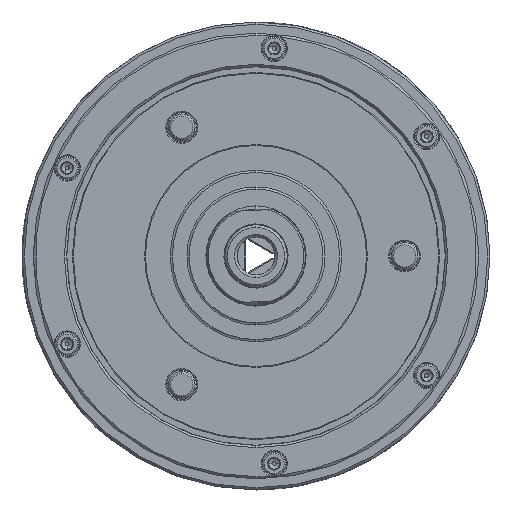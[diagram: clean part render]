
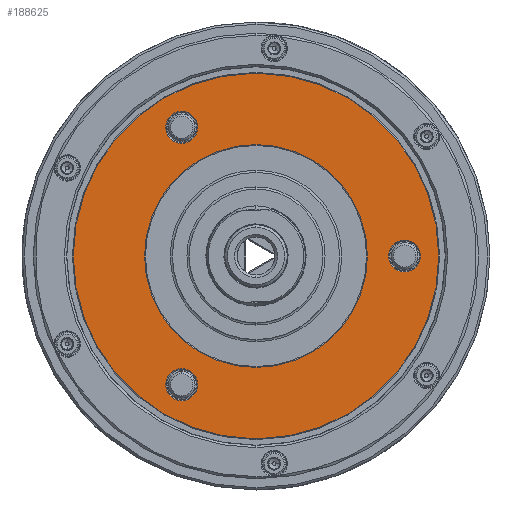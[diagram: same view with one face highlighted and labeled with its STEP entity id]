
A CAD part, left-side view. The second image highlights one B-rep face of the part: STEP entity #188625.
In plain terms, the highlighted planar face has unit normal (-1, 0, 0).
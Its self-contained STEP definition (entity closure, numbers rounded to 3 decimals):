
#10444 = EDGE_CURVE ( 'NONE', #88741, #179920, #43274, .T. ) ;
#10741 = CARTESIAN_POINT ( 'NONE',  ( -93.5, 0., 0. ) ) ;
#13747 = DIRECTION ( 'NONE',  ( 0., 0., -1. ) ) ;
#14644 = DIRECTION ( 'NONE',  ( 1., 0., 0. ) ) ;
#17231 = CIRCLE ( 'NONE', #163757, 82. ) ;
#19206 = CARTESIAN_POINT ( 'NONE',  ( -93.5, -66.675, 0. ) ) ;
#22738 = ORIENTED_EDGE ( 'NONE', *, *, #149877, .T. ) ;
#23756 = EDGE_CURVE ( 'NONE', #137928, #179640, #193161, .T. ) ;
#24074 = EDGE_LOOP ( 'NONE', ( #125109, #192312, #134665, #182634, #83378 ) ) ;
#25148 = AXIS2_PLACEMENT_3D ( 'NONE', #205371, #109724, #13747 ) ;
#25472 = CARTESIAN_POINT ( 'NONE',  ( -93.5, 0., 0. ) ) ;
#25717 = DIRECTION ( 'NONE',  ( 1., 0., 0. ) ) ;
#26869 = DIRECTION ( 'NONE',  ( 0., 0., -1. ) ) ;
#27571 = CARTESIAN_POINT ( 'NONE',  ( -93.5, 33.338, 50.592 ) ) ;
#30744 = CARTESIAN_POINT ( 'NONE',  ( -93.5, 1.401, -81.988 ) ) ;
#32737 = CARTESIAN_POINT ( 'NONE',  ( -93.5, 33.338, 57.742 ) ) ;
#32760 = CARTESIAN_POINT ( 'NONE',  ( -93.5, -82., 0. ) ) ;
#33189 = CARTESIAN_POINT ( 'NONE',  ( -93.5, 33.338, 64.892 ) ) ;
#35331 = DIRECTION ( 'NONE',  ( 0., 0., -1. ) ) ;
#37050 = ORIENTED_EDGE ( 'NONE', *, *, #23756, .T. ) ;
#37098 = CIRCLE ( 'NONE', #82580, 82. ) ;
#37717 = CARTESIAN_POINT ( 'NONE',  ( -93.5, -1.401, 81.988 ) ) ;
#39871 = CIRCLE ( 'NONE', #141649, 7.15 ) ;
#41237 = ORIENTED_EDGE ( 'NONE', *, *, #42181, .T. ) ;
#41595 = DIRECTION ( 'NONE',  ( 0., 0., -1. ) ) ;
#41694 = CIRCLE ( 'NONE', #116636, 82. ) ;
#42181 = EDGE_CURVE ( 'NONE', #146048, #105163, #168175, .T. ) ;
#43142 = DIRECTION ( 'NONE',  ( 1., 0., 0. ) ) ;
#43274 = CIRCLE ( 'NONE', #161544, 82. ) ;
#45879 = CARTESIAN_POINT ( 'NONE',  ( -93.5, -66.675, -7.15 ) ) ;
#48848 = DIRECTION ( 'NONE',  ( 0., 0., -1. ) ) ;
#48851 = AXIS2_PLACEMENT_3D ( 'NONE', #32737, #144751, #48848 ) ;
#48873 = DIRECTION ( 'NONE',  ( 0., 0., -1. ) ) ;
#54233 = CIRCLE ( 'NONE', #128070, 82. ) ;
#54810 = VERTEX_POINT ( 'NONE', #189680 ) ;
#55330 = CIRCLE ( 'NONE', #201798, 50. ) ;
#57257 = EDGE_CURVE ( 'NONE', #82886, #70379, #39871, .T. ) ;
#59381 = EDGE_CURVE ( 'NONE', #159387, #88741, #41694, .T. ) ;
#66847 = DIRECTION ( 'NONE',  ( 1., 0., 0. ) ) ;
#66857 = CARTESIAN_POINT ( 'NONE',  ( -93.5, 0., 0. ) ) ;
#67277 = DIRECTION ( 'NONE',  ( 1., 0., 0. ) ) ;
#70379 = VERTEX_POINT ( 'NONE', #138431 ) ;
#70687 = EDGE_LOOP ( 'NONE', ( #130302, #138356 ) ) ;
#76877 = VERTEX_POINT ( 'NONE', #33189 ) ;
#76912 = EDGE_CURVE ( 'NONE', #106041, #54810, #37098, .T. ) ;
#79467 = CARTESIAN_POINT ( 'NONE',  ( -93.5, 0., 0. ) ) ;
#79947 = FACE_BOUND ( 'NONE', #111003, .T. ) ;
#80253 = CIRCLE ( 'NONE', #80897, 7.15 ) ;
#80439 = PLANE ( 'NONE',  #189776 ) ;
#80897 = AXIS2_PLACEMENT_3D ( 'NONE', #186702, #90929, #202702 ) ;
#82580 = AXIS2_PLACEMENT_3D ( 'NONE', #162669, #66847, #178722 ) ;
#82886 = VERTEX_POINT ( 'NONE', #177366 ) ;
#82943 = DIRECTION ( 'NONE',  ( 0., 0., -1. ) ) ;
#83378 = ORIENTED_EDGE ( 'NONE', *, *, #83424, .F. ) ;
#83424 = EDGE_CURVE ( 'NONE', #179920, #106041, #17231, .T. ) ;
#88741 = VERTEX_POINT ( 'NONE', #130531 ) ;
#90929 = DIRECTION ( 'NONE',  ( 1., 0., 0. ) ) ;
#95493 = DIRECTION ( 'NONE',  ( 0., 0., -1. ) ) ;
#96132 = ORIENTED_EDGE ( 'NONE', *, *, #57257, .T. ) ;
#105163 = VERTEX_POINT ( 'NONE', #143962 ) ;
#105516 = VERTEX_POINT ( 'NONE', #27571 ) ;
#106041 = VERTEX_POINT ( 'NONE', #30744 ) ;
#109724 = DIRECTION ( 'NONE',  ( 1., 0., 0. ) ) ;
#110591 = CARTESIAN_POINT ( 'NONE',  ( -93.5, 0., 0. ) ) ;
#111003 = EDGE_LOOP ( 'NONE', ( #37050, #22738 ) ) ;
#116636 = AXIS2_PLACEMENT_3D ( 'NONE', #25472, #137498, #41595 ) ;
#117931 = CARTESIAN_POINT ( 'NONE',  ( -93.5, 0., -82. ) ) ;
#121672 = CARTESIAN_POINT ( 'NONE',  ( -93.5, 0., 0. ) ) ;
#122536 = FACE_BOUND ( 'NONE', #70687, .T. ) ;
#122837 = DIRECTION ( 'NONE',  ( 1., 0., 0. ) ) ;
#124127 = EDGE_CURVE ( 'NONE', #105516, #76877, #163041, .T. ) ;
#125109 = ORIENTED_EDGE ( 'NONE', *, *, #10444, .F. ) ;
#125396 = AXIS2_PLACEMENT_3D ( 'NONE', #19206, #131280, #35331 ) ;
#126677 = DIRECTION ( 'NONE',  ( 0., 0., -1. ) ) ;
#126771 = ORIENTED_EDGE ( 'NONE', *, *, #140875, .T. ) ;
#127134 = EDGE_CURVE ( 'NONE', #70379, #82886, #80253, .T. ) ;
#127514 = FACE_OUTER_BOUND ( 'NONE', #24074, .T. ) ;
#128070 = AXIS2_PLACEMENT_3D ( 'NONE', #121672, #25717, #137740 ) ;
#130302 = ORIENTED_EDGE ( 'NONE', *, *, #181242, .T. ) ;
#130531 = CARTESIAN_POINT ( 'NONE',  ( -93.5, -1.401, -81.988 ) ) ;
#131280 = DIRECTION ( 'NONE',  ( 1., 0., 0. ) ) ;
#134665 = ORIENTED_EDGE ( 'NONE', *, *, #194471, .F. ) ;
#135481 = AXIS2_PLACEMENT_3D ( 'NONE', #66857, #178732, #82943 ) ;
#137498 = DIRECTION ( 'NONE',  ( 1., 0., 0. ) ) ;
#137740 = DIRECTION ( 'NONE',  ( 0., 0., -1. ) ) ;
#137902 = CARTESIAN_POINT ( 'NONE',  ( -93.5, 0., -50. ) ) ;
#137928 = VERTEX_POINT ( 'NONE', #194566 ) ;
#138356 = ORIENTED_EDGE ( 'NONE', *, *, #124127, .T. ) ;
#138431 = CARTESIAN_POINT ( 'NONE',  ( -93.5, 33.337, -50.592 ) ) ;
#139046 = CARTESIAN_POINT ( 'NONE',  ( -93.5, 33.337, -57.742 ) ) ;
#140875 = EDGE_CURVE ( 'NONE', #105163, #146048, #55330, .T. ) ;
#141649 = AXIS2_PLACEMENT_3D ( 'NONE', #139046, #43142, #155122 ) ;
#143962 = CARTESIAN_POINT ( 'NONE',  ( -93.5, 0., 50. ) ) ;
#144751 = DIRECTION ( 'NONE',  ( 1., 0., 0. ) ) ;
#144773 = DIRECTION ( 'NONE',  ( 1., 0., 0. ) ) ;
#146048 = VERTEX_POINT ( 'NONE', #137902 ) ;
#146098 = CIRCLE ( 'NONE', #25148, 7.15 ) ;
#149877 = EDGE_CURVE ( 'NONE', #179640, #137928, #157803, .T. ) ;
#155122 = DIRECTION ( 'NONE',  ( 0., 0., -1. ) ) ;
#157803 = CIRCLE ( 'NONE', #125396, 7.15 ) ;
#159387 = VERTEX_POINT ( 'NONE', #37717 ) ;
#161544 = AXIS2_PLACEMENT_3D ( 'NONE', #10741, #122837, #26869 ) ;
#162669 = CARTESIAN_POINT ( 'NONE',  ( -93.5, 0., 0. ) ) ;
#163041 = CIRCLE ( 'NONE', #48851, 7.15 ) ;
#163081 = CARTESIAN_POINT ( 'NONE',  ( -93.5, -66.675, 0. ) ) ;
#163757 = AXIS2_PLACEMENT_3D ( 'NONE', #110591, #14644, #126677 ) ;
#165065 = FACE_BOUND ( 'NONE', #202615, .T. ) ;
#168175 = CIRCLE ( 'NONE', #135481, 50. ) ;
#170422 = EDGE_LOOP ( 'NONE', ( #126771, #41237 ) ) ;
#177366 = CARTESIAN_POINT ( 'NONE',  ( -93.5, 33.337, -64.892 ) ) ;
#178722 = DIRECTION ( 'NONE',  ( 0., 0., -1. ) ) ;
#178732 = DIRECTION ( 'NONE',  ( 1., 0., 0. ) ) ;
#179141 = DIRECTION ( 'NONE',  ( 0., 0., -1. ) ) ;
#179640 = VERTEX_POINT ( 'NONE', #45879 ) ;
#179920 = VERTEX_POINT ( 'NONE', #117931 ) ;
#181242 = EDGE_CURVE ( 'NONE', #76877, #105516, #146098, .T. ) ;
#182634 = ORIENTED_EDGE ( 'NONE', *, *, #76912, .F. ) ;
#186203 = ORIENTED_EDGE ( 'NONE', *, *, #127134, .T. ) ;
#186702 = CARTESIAN_POINT ( 'NONE',  ( -93.5, 33.337, -57.742 ) ) ;
#187182 = AXIS2_PLACEMENT_3D ( 'NONE', #163081, #67277, #179141 ) ;
#188625 = ADVANCED_FACE ( 'NONE', ( #127514, #207438, #165065, #122536, #79947 ), #80439, .F. ) ;
#189680 = CARTESIAN_POINT ( 'NONE',  ( -93.5, 1.401, 81.988 ) ) ;
#189776 = AXIS2_PLACEMENT_3D ( 'NONE', #32760, #144773, #48873 ) ;
#191309 = DIRECTION ( 'NONE',  ( 1., 0., 0. ) ) ;
#192312 = ORIENTED_EDGE ( 'NONE', *, *, #59381, .F. ) ;
#193161 = CIRCLE ( 'NONE', #187182, 7.15 ) ;
#194471 = EDGE_CURVE ( 'NONE', #54810, #159387, #54233, .T. ) ;
#194566 = CARTESIAN_POINT ( 'NONE',  ( -93.5, -66.675, 7.15 ) ) ;
#201798 = AXIS2_PLACEMENT_3D ( 'NONE', #79467, #191309, #95493 ) ;
#202615 = EDGE_LOOP ( 'NONE', ( #186203, #96132 ) ) ;
#202702 = DIRECTION ( 'NONE',  ( 0., 0., -1. ) ) ;
#205371 = CARTESIAN_POINT ( 'NONE',  ( -93.5, 33.338, 57.742 ) ) ;
#207438 = FACE_BOUND ( 'NONE', #170422, .T. ) ;
